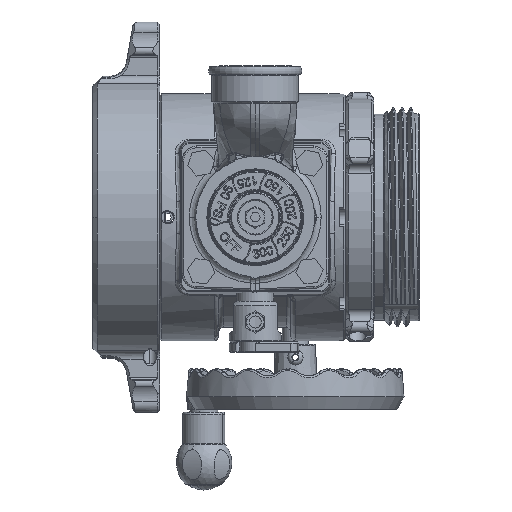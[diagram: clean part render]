
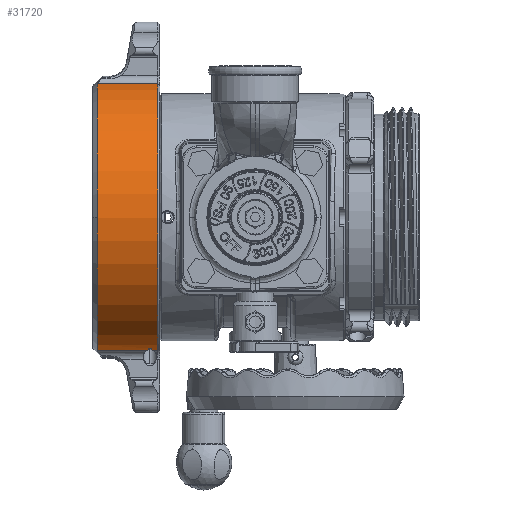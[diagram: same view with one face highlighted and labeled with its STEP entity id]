
A CAD part, front view. The second image highlights one B-rep face of the part: STEP entity #31720.
In plain terms, the highlighted cylindrical face has radius 98.425 mm (diameter 196.85 mm), a partial arc.
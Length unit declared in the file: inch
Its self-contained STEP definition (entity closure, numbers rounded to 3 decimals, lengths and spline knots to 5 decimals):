
#10035 = EDGE_CURVE ( 'NONE', #126589, #126590, #44193, .T. ) ;
#10127 = EDGE_CURVE ( 'NONE', #126630, #126607, #34842, .T. ) ;
#10138 = EDGE_CURVE ( 'NONE', #126630, #126631, #44283, .T. ) ;
#10140 = EDGE_CURVE ( 'NONE', #126631, #126635, #44285, .T. ) ;
#10142 = EDGE_CURVE ( 'NONE', #126629, #126635, #44293, .T. ) ;
#10144 = EDGE_CURVE ( 'NONE', #126590, #126629, #44289, .T. ) ;
#10146 = EDGE_CURVE ( 'NONE', #126589, #126625, #44299, .T. ) ;
#10148 = EDGE_CURVE ( 'NONE', #126637, #126625, #34846, .T. ) ;
#10149 = EDGE_CURVE ( 'NONE', #126637, #126607, #44301, .T. ) ;
#20815 = AXIS2_PLACEMENT_3D ( 'NONE', #100317, #100312, #100298 ) ;
#31720 = ADVANCED_FACE ( 'NONE', ( #117724 ), #117728, .T. ) ;
#34842 = B_SPLINE_CURVE_WITH_KNOTS ( 'NONE', 3,
 ( #128047, #128084, #128118, #128120, #128122, #128124, #128125, #128127, #128129, #128131, #128133, #128135, #128137, #128138, #128140, #128142 ),
 .UNSPECIFIED., .F., .F.,
 ( 4, 2, 2, 2, 2, 2, 2, 4 ),
 ( 0., 0.00203, 0.00304, 0.00405, 0.00507, 0.00608, 0.0071, 0.00811 ),
 .UNSPECIFIED. ) ;
#34846 = B_SPLINE_CURVE_WITH_KNOTS ( 'NONE', 3,
 ( #128278, #128266, #128268, #128281, #128283, #128285, #128287, #128289, #128291, #128293, #128294, #128296, #128298, #128300, #128302, #128304 ),
 .UNSPECIFIED., .F., .F.,
 ( 4, 2, 2, 2, 2, 2, 2, 4 ),
 ( 0., 0.00101, 0.00203, 0.00304, 0.00406, 0.00507, 0.00608, 0.00811 ),
 .UNSPECIFIED. ) ;
#35498 = EDGE_LOOP ( 'NONE', ( #77774, #77775, #77776, #77777, #77778, #77779, #77780, #77781, #77782 ) ) ;
#44193 = CIRCLE ( 'NONE', #155420, 3.875 ) ;
#44283 = LINE ( 'NONE', #128247, #44291 ) ;
#44285 = CIRCLE ( 'NONE', #155492, 3.875 ) ;
#44289 = CIRCLE ( 'NONE', #155495, 3.875 ) ;
#44291 = VECTOR ( 'NONE', #128250, 39.37008 ) ;
#44293 = LINE ( 'NONE', #128248, #44297 ) ;
#44297 = VECTOR ( 'NONE', #128173, 39.37008 ) ;
#44299 = LINE ( 'NONE', #128262, #44303 ) ;
#44301 = LINE ( 'NONE', #128280, #44305 ) ;
#44303 = VECTOR ( 'NONE', #128254, 39.37008 ) ;
#44305 = VECTOR ( 'NONE', #128306, 39.37008 ) ;
#77774 = ORIENTED_EDGE ( 'NONE', *, *, #10127, .F. ) ;
#77775 = ORIENTED_EDGE ( 'NONE', *, *, #10138, .T. ) ;
#77776 = ORIENTED_EDGE ( 'NONE', *, *, #10140, .T. ) ;
#77777 = ORIENTED_EDGE ( 'NONE', *, *, #10142, .F. ) ;
#77778 = ORIENTED_EDGE ( 'NONE', *, *, #10144, .F. ) ;
#77779 = ORIENTED_EDGE ( 'NONE', *, *, #10035, .F. ) ;
#77780 = ORIENTED_EDGE ( 'NONE', *, *, #10146, .T. ) ;
#77781 = ORIENTED_EDGE ( 'NONE', *, *, #10148, .F. ) ;
#77782 = ORIENTED_EDGE ( 'NONE', *, *, #10149, .T. ) ;
#100298 = DIRECTION ( 'NONE',  ( 0., -0.003, 1. ) ) ;
#100312 = DIRECTION ( 'NONE',  ( 1., 0., 0. ) ) ;
#100317 = CARTESIAN_POINT ( 'NONE',  ( -4.693, 0., 0. ) ) ;
#109161 = CARTESIAN_POINT ( 'NONE',  ( -4.518, -0.66878, -3.81685 ) ) ;
#109163 = CARTESIAN_POINT ( 'NONE',  ( -4.518, -3.87498, -0.01247 ) ) ;
#109196 = CARTESIAN_POINT ( 'NONE',  ( -2.9744, -0.97395, -3.75061 ) ) ;
#109230 = CARTESIAN_POINT ( 'NONE',  ( -3.1126, -0.66878, -3.81685 ) ) ;
#109238 = CARTESIAN_POINT ( 'NONE',  ( -4.518, -0.69334, 3.81247 ) ) ;
#109240 = CARTESIAN_POINT ( 'NONE',  ( -2.9074, -0.66878, -3.81685 ) ) ;
#109242 = CARTESIAN_POINT ( 'NONE',  ( -2.7925, -0.66878, -3.81685 ) ) ;
#109249 = CARTESIAN_POINT ( 'NONE',  ( -2.7925, -0.69334, 3.81247 ) ) ;
#109253 = CARTESIAN_POINT ( 'NONE',  ( -3.0456, -0.97395, -3.75061 ) ) ;
#117724 = FACE_OUTER_BOUND ( 'NONE', #35498, .T. ) ;
#117728 = CYLINDRICAL_SURFACE ( 'NONE', #20815, 3.875 ) ;
#126589 = VERTEX_POINT ( 'NONE', #109161 ) ;
#126590 = VERTEX_POINT ( 'NONE', #109163 ) ;
#126607 = VERTEX_POINT ( 'NONE', #109196 ) ;
#126625 = VERTEX_POINT ( 'NONE', #109230 ) ;
#126629 = VERTEX_POINT ( 'NONE', #109238 ) ;
#126630 = VERTEX_POINT ( 'NONE', #109240 ) ;
#126631 = VERTEX_POINT ( 'NONE', #109242 ) ;
#126635 = VERTEX_POINT ( 'NONE', #109249 ) ;
#126637 = VERTEX_POINT ( 'NONE', #109253 ) ;
#127711 = CARTESIAN_POINT ( 'NONE',  ( -4.518, 0., 0. ) ) ;
#127712 = DIRECTION ( 'NONE',  ( -1., 0., 0. ) ) ;
#127714 = DIRECTION ( 'NONE',  ( 0., -1., -0.003 ) ) ;
#128047 = CARTESIAN_POINT ( 'NONE',  ( -2.9074, -0.66878, -3.81685 ) ) ;
#128084 = CARTESIAN_POINT ( 'NONE',  ( -2.91506, -0.69392, -3.81245 ) ) ;
#128118 = CARTESIAN_POINT ( 'NONE',  ( -2.92314, -0.71891, -3.80781 ) ) ;
#128120 = CARTESIAN_POINT ( 'NONE',  ( -2.93533, -0.75631, -3.8005 ) ) ;
#128122 = CARTESIAN_POINT ( 'NONE',  ( -2.9394, -0.76876, -3.798 ) ) ;
#128124 = CARTESIAN_POINT ( 'NONE',  ( -2.94727, -0.79369, -3.79287 ) ) ;
#128125 = CARTESIAN_POINT ( 'NONE',  ( -2.95108, -0.80618, -3.79023 ) ) ;
#128127 = CARTESIAN_POINT ( 'NONE',  ( -2.95783, -0.83134, -3.78479 ) ) ;
#128129 = CARTESIAN_POINT ( 'NONE',  ( -2.96075, -0.84401, -3.78199 ) ) ;
#128131 = CARTESIAN_POINT ( 'NONE',  ( -2.96547, -0.8696, -3.77619 ) ) ;
#128133 = CARTESIAN_POINT ( 'NONE',  ( -2.96727, -0.88252, -3.77319 ) ) ;
#128135 = CARTESIAN_POINT ( 'NONE',  ( -2.96994, -0.90855, -3.76701 ) ) ;
#128137 = CARTESIAN_POINT ( 'NONE',  ( -2.97081, -0.92166, -3.76382 ) ) ;
#128138 = CARTESIAN_POINT ( 'NONE',  ( -2.97242, -0.94784, -3.75731 ) ) ;
#128140 = CARTESIAN_POINT ( 'NONE',  ( -2.97316, -0.96092, -3.75399 ) ) ;
#128142 = CARTESIAN_POINT ( 'NONE',  ( -2.9744, -0.97395, -3.75061 ) ) ;
#128173 = DIRECTION ( 'NONE',  ( 1., 0., 0. ) ) ;
#128247 = CARTESIAN_POINT ( 'NONE',  ( -4.693, -0.66878, -3.81685 ) ) ;
#128248 = CARTESIAN_POINT ( 'NONE',  ( -4.693, -0.69334, 3.81247 ) ) ;
#128250 = DIRECTION ( 'NONE',  ( 1., 0., 0. ) ) ;
#128254 = DIRECTION ( 'NONE',  ( 1., 0., 0. ) ) ;
#128257 = CARTESIAN_POINT ( 'NONE',  ( -2.7925, 0., 0. ) ) ;
#128258 = DIRECTION ( 'NONE',  ( -1., 0., 0. ) ) ;
#128260 = DIRECTION ( 'NONE',  ( 0., 0.003, -1. ) ) ;
#128262 = CARTESIAN_POINT ( 'NONE',  ( -4.693, -0.66878, -3.81685 ) ) ;
#128266 = CARTESIAN_POINT ( 'NONE',  ( -3.04683, -0.96106, -3.75395 ) ) ;
#128268 = CARTESIAN_POINT ( 'NONE',  ( -3.04757, -0.94805, -3.75726 ) ) ;
#128269 = CARTESIAN_POINT ( 'NONE',  ( -4.518, 0., 0. ) ) ;
#128271 = DIRECTION ( 'NONE',  ( -1., 0., 0. ) ) ;
#128273 = DIRECTION ( 'NONE',  ( 0., -1., -0.003 ) ) ;
#128278 = CARTESIAN_POINT ( 'NONE',  ( -3.0456, -0.97395, -3.75061 ) ) ;
#128280 = CARTESIAN_POINT ( 'NONE',  ( -4.693, -0.97395, -3.75061 ) ) ;
#128281 = CARTESIAN_POINT ( 'NONE',  ( -3.04916, -0.92204, -3.76373 ) ) ;
#128283 = CARTESIAN_POINT ( 'NONE',  ( -3.05003, -0.90902, -3.76689 ) ) ;
#128285 = CARTESIAN_POINT ( 'NONE',  ( -3.05266, -0.88314, -3.77304 ) ) ;
#128287 = CARTESIAN_POINT ( 'NONE',  ( -3.05443, -0.87027, -3.77603 ) ) ;
#128289 = CARTESIAN_POINT ( 'NONE',  ( -3.0591, -0.84473, -3.78183 ) ) ;
#128291 = CARTESIAN_POINT ( 'NONE',  ( -3.062, -0.83204, -3.78464 ) ) ;
#128293 = CARTESIAN_POINT ( 'NONE',  ( -3.06872, -0.80683, -3.79009 ) ) ;
#128294 = CARTESIAN_POINT ( 'NONE',  ( -3.07254, -0.79429, -3.79274 ) ) ;
#128296 = CARTESIAN_POINT ( 'NONE',  ( -3.08044, -0.76925, -3.7979 ) ) ;
#128298 = CARTESIAN_POINT ( 'NONE',  ( -3.08453, -0.75674, -3.80041 ) ) ;
#128300 = CARTESIAN_POINT ( 'NONE',  ( -3.09678, -0.71917, -3.80777 ) ) ;
#128302 = CARTESIAN_POINT ( 'NONE',  ( -3.1049, -0.69406, -3.81242 ) ) ;
#128304 = CARTESIAN_POINT ( 'NONE',  ( -3.1126, -0.66878, -3.81685 ) ) ;
#128306 = DIRECTION ( 'NONE',  ( 1., 0., 0. ) ) ;
#155420 = AXIS2_PLACEMENT_3D ( 'NONE', #127711, #127712, #127714 ) ;
#155492 = AXIS2_PLACEMENT_3D ( 'NONE', #128257, #128258, #128260 ) ;
#155495 = AXIS2_PLACEMENT_3D ( 'NONE', #128269, #128271, #128273 ) ;
